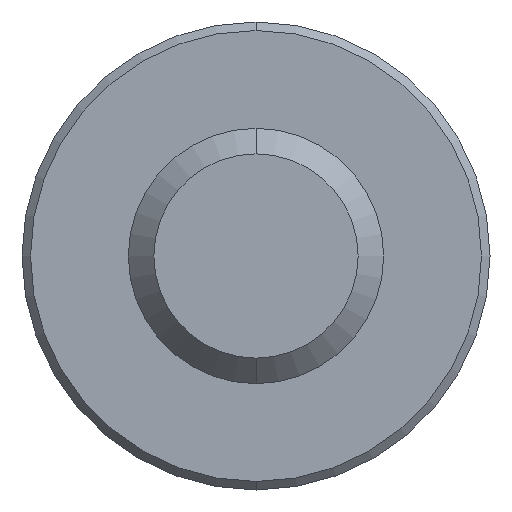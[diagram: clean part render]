
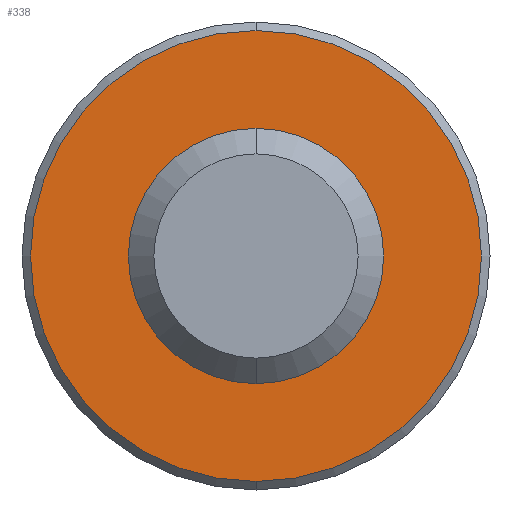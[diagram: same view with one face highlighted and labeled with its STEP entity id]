
A CAD part, front view. The second image highlights one B-rep face of the part: STEP entity #338.
In plain terms, the highlighted planar face has unit normal (0, -1, 0).
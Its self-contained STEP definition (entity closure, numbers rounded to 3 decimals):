
#36 = ORIENTED_EDGE ( 'NONE', *, *, #269, .F. ) ;
#48 = ORIENTED_EDGE ( 'NONE', *, *, #288, .F. ) ;
#60 = ORIENTED_EDGE ( 'NONE', *, *, #281, .T. ) ;
#72 = ORIENTED_EDGE ( 'NONE', *, *, #266, .T. ) ;
#86 = VERTEX_POINT ( 'NONE', #369 ) ;
#95 = VERTEX_POINT ( 'NONE', #403 ) ;
#108 = VERTEX_POINT ( 'NONE', #406 ) ;
#125 = EDGE_LOOP ( 'NONE', ( #36, #48 ) ) ;
#130 = EDGE_LOOP ( 'NONE', ( #60, #72 ) ) ;
#134 = VERTEX_POINT ( 'NONE', #385 ) ;
#143 = CIRCLE ( 'NONE', #291, 2.65 ) ;
#146 = CIRCLE ( 'NONE', #289, 2.65 ) ;
#148 = CIRCLE ( 'NONE', #283, 1.5 ) ;
#168 = CIRCLE ( 'NONE', #311, 1.5 ) ;
#206 = FACE_BOUND ( 'NONE', #125, .T. ) ;
#211 = FACE_OUTER_BOUND ( 'NONE', #130, .T. ) ;
#266 = EDGE_CURVE ( 'NONE', #134, #108, #143, .T. ) ;
#269 = EDGE_CURVE ( 'NONE', #95, #86, #148, .T. ) ;
#281 = EDGE_CURVE ( 'NONE', #108, #134, #146, .T. ) ;
#283 = AXIS2_PLACEMENT_3D ( 'NONE', #454, #415, #447 ) ;
#288 = EDGE_CURVE ( 'NONE', #86, #95, #168, .T. ) ;
#289 = AXIS2_PLACEMENT_3D ( 'NONE', #450, #438, #440 ) ;
#291 = AXIS2_PLACEMENT_3D ( 'NONE', #375, #383, #399 ) ;
#311 = AXIS2_PLACEMENT_3D ( 'NONE', #448, #430, #435 ) ;
#328 = AXIS2_PLACEMENT_3D ( 'NONE', #508, #532, #500 ) ;
#338 = ADVANCED_FACE ( 'NONE', ( #211, #206 ), #523, .F. ) ;
#369 = CARTESIAN_POINT ( 'NONE',  ( 0., 15., 1.5 ) ) ;
#375 = CARTESIAN_POINT ( 'NONE',  ( 0., 15., 0. ) ) ;
#383 = DIRECTION ( 'NONE',  ( 0., -1., 0. ) ) ;
#385 = CARTESIAN_POINT ( 'NONE',  ( 0., 15., -2.65 ) ) ;
#399 = DIRECTION ( 'NONE',  ( 0., 0., 1. ) ) ;
#403 = CARTESIAN_POINT ( 'NONE',  ( 0., 15., -1.5 ) ) ;
#406 = CARTESIAN_POINT ( 'NONE',  ( 0., 15., 2.65 ) ) ;
#415 = DIRECTION ( 'NONE',  ( 0., -1., 0. ) ) ;
#430 = DIRECTION ( 'NONE',  ( 0., -1., 0. ) ) ;
#435 = DIRECTION ( 'NONE',  ( 0., 0., -1. ) ) ;
#438 = DIRECTION ( 'NONE',  ( 0., -1., 0. ) ) ;
#440 = DIRECTION ( 'NONE',  ( 0., 0., 1. ) ) ;
#447 = DIRECTION ( 'NONE',  ( 0., 0., -1. ) ) ;
#448 = CARTESIAN_POINT ( 'NONE',  ( 0., 15., 0. ) ) ;
#450 = CARTESIAN_POINT ( 'NONE',  ( 0., 15., 0. ) ) ;
#454 = CARTESIAN_POINT ( 'NONE',  ( 0., 15., 0. ) ) ;
#500 = DIRECTION ( 'NONE',  ( 0., 0., 1. ) ) ;
#508 = CARTESIAN_POINT ( 'NONE',  ( -1.5, 15., 0. ) ) ;
#523 = PLANE ( 'NONE',  #328 ) ;
#532 = DIRECTION ( 'NONE',  ( 0., 1., 0. ) ) ;
